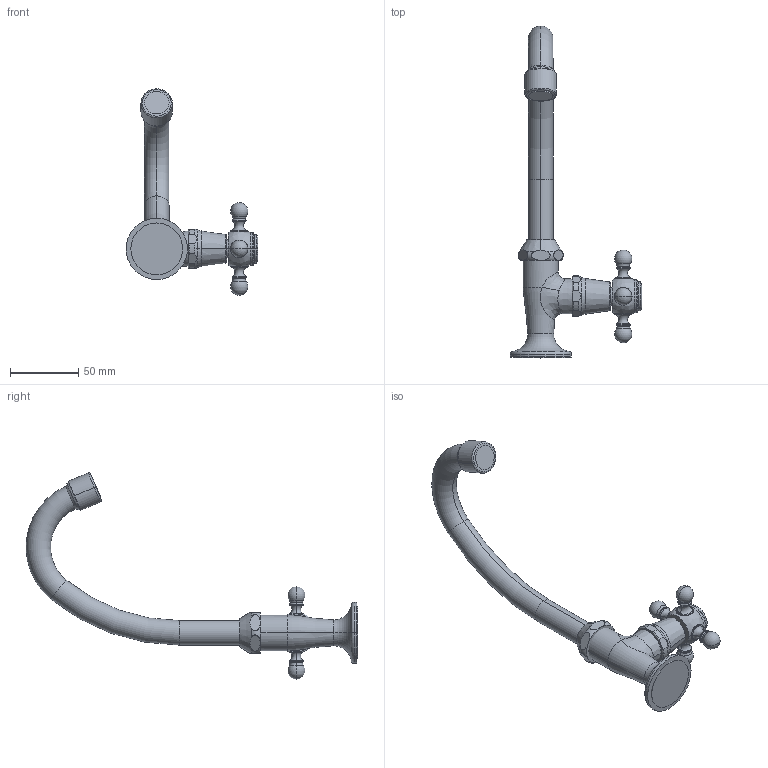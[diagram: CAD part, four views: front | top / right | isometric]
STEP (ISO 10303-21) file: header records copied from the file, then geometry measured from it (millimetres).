
FILE_DESCRIPTION((''),'2;1');
FILE_NAME('37016_SUB01_SW0001','2026-09-10T11:01:43',('clra1'),(''),'CREO PARAMETRIC BY PTC INC, 2022244','CREO PARAMETRIC BY PTC INC, 2022244','');
FILE_SCHEMA(('CONFIG_CONTROL_DESIGN'));
Length unit declared in the file: millimetre
Products named in the file (1): 37016_SUB01_SW0001
Bounding box: 96.75 x 243.47 x 151.44 mm (x, y, z)
Surface area: 37203.6 mm2 (no closed solid volume)
Topology: 0 solids, 12 shells, 174 faces, 398 edges, 224 vertices
Faces by surface type: torus 84, cylinder 24, plane 22, bspline 18, cone 14, sphere 8, revolution 4
Entity records: 6514 total; most frequent: CARTESIAN_POINT 2677, DIRECTION 884, ORIENTED_EDGE 739, AXIS2_PLACEMENT_3D 418, EDGE_CURVE 390, CIRCLE 266, VERTEX_POINT 224, EDGE_LOOP 174
